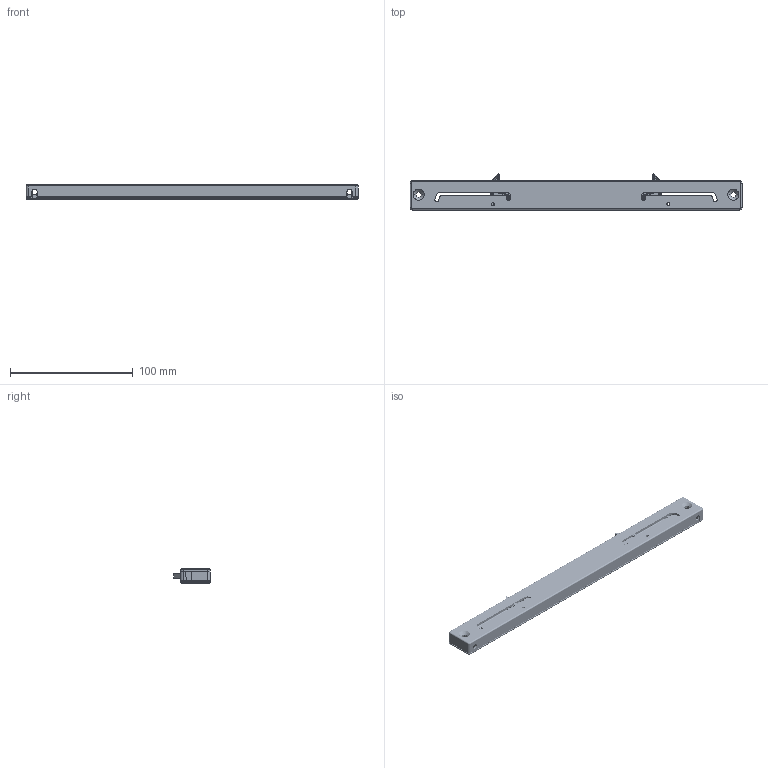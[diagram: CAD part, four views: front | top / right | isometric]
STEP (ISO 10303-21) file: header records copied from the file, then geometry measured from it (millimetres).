
FILE_DESCRIPTION((''),'2;1');
FILE_NAME('E050-08-204_SW0001','2020-06-22T',('fkoch'),(''),'CREO PARAMETRIC BY PTC INC, 2017020','CREO PARAMETRIC BY PTC INC, 2017020','');
FILE_SCHEMA(('AUTOMOTIVE_DESIGN { 1 0 10303 214 1 1 1 1 }'));
Products named in the file (1): E050-08-204_SW0001
Bounding box: 270 x 29.47 x 12 mm (x, y, z)
Volume: 32954.9 mm3; surface area: 53396.1 mm2
Topology: 1 solids, 1 shells, 4997 faces, 11851 edges, 6858 vertices
Faces by surface type: cylinder 1983, plane 1035, torus 877, bspline 783, sphere 208, cone 106, extrusion 5
Entity records: 298087 total; most frequent: CARTESIAN_POINT 97141, ORIENTED_EDGE 23702, DIRECTION 23200, PRESENTATION_STYLE_ASSIGNMENT 16854, STYLED_ITEM 11857, CURVE_STYLE 11856, EDGE_CURVE 11851, AXIS2_PLACEMENT_3D 9261
